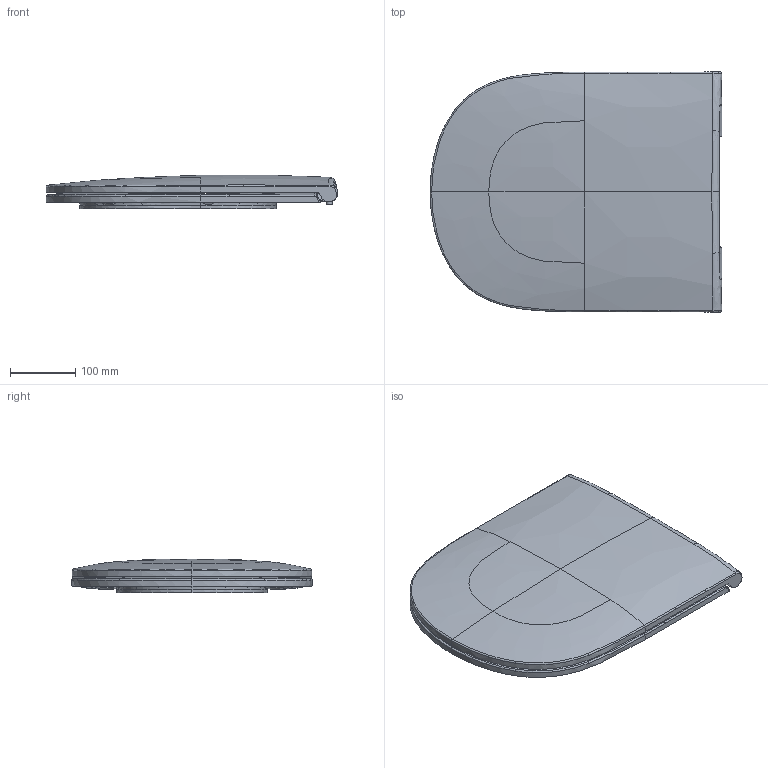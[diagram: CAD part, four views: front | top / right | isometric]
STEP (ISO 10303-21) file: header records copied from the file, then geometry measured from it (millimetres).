
FILE_DESCRIPTION(/* description */ (''),/* implementation_level */ '2;1');
FILE_NAME(/* name */ '891082BIM.stp',/* time_stamp */ '2022-02-24T15:29:56+01:00',/* author */ (''),/* organization */ (''),/* preprocessor_version */ 'ST-DEVELOPER v16.7',/* originating_system */ 'SIEMENS PLM Software NX 1946',/* authorisation */ '');
FILE_SCHEMA (('AUTOMOTIVE_DESIGN { 1 0 10303 214 3 1 1 1 }'));
Length unit declared in the file: millimetre
Products named in the file (1): stoj70DC1AFEsqyu
Bounding box: 445.87 x 367.29 x 51.64 mm (x, y, z)
Volume: 2055859.8 mm3; surface area: 563429.8 mm2
Topology: 2 solids, 2 shells, 326 faces, 833 edges, 523 vertices
Faces by surface type: bspline 284, plane 36, extrusion 4, cylinder 2
Full cylindrical faces by diameter (mm): 9 x2
Entity records: 33328 total; most frequent: CARTESIAN_POINT 27899, ORIENTED_EDGE 1642, EDGE_CURVE 821, B_SPLINE_CURVE_WITH_KNOTS 776, VERTEX_POINT 521, EDGE_LOOP 350, ADVANCED_FACE 326, FACE_OUTER_BOUND 306
